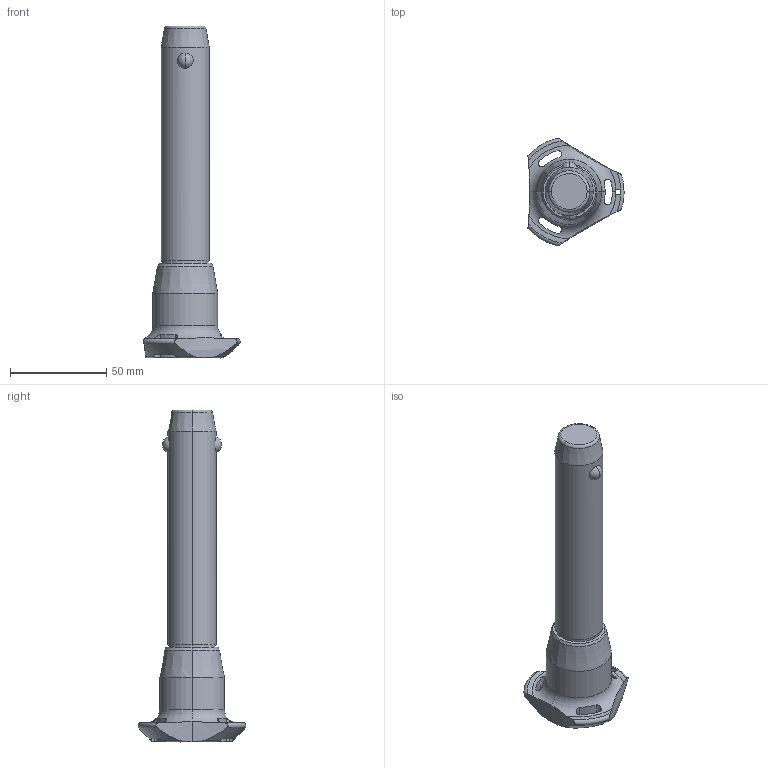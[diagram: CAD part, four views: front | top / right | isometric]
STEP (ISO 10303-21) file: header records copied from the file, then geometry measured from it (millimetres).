
FILE_DESCRIPTION (( 'STEP AP203' ), '1' );
FILE_NAME ('QR1714.M25-100-S.step', '2025-11-12T10:33:26', ( '' ), ( '' ), 'SwSTEP 2.0', 'SolidWorks 2019', '' );
FILE_SCHEMA (( 'CONFIG_CONTROL_DESIGN' ));
Length unit declared in the file: millimetre
Products named in the file (1): QR1714.M25-100-S
Bounding box: 50.04 x 56.02 x 172.7 mm (x, y, z)
Volume: 107540.9 mm3; surface area: 19303.2 mm2
Topology: 1 solids, 1 shells, 65 faces, 176 edges, 111 vertices
Faces by surface type: cylinder 30, cone 14, torus 11, sphere 6, plane 4
Entity records: 2858 total; most frequent: CARTESIAN_POINT 1179, ORIENTED_EDGE 352, DIRECTION 329, EDGE_CURVE 176, AXIS2_PLACEMENT_3D 147, VERTEX_POINT 111, CIRCLE 81, EDGE_LOOP 71
